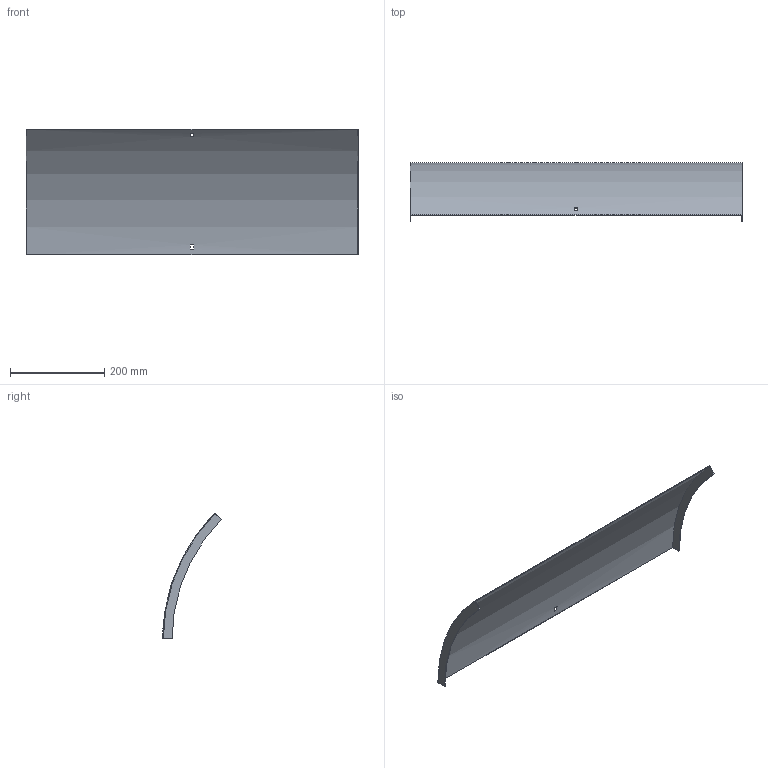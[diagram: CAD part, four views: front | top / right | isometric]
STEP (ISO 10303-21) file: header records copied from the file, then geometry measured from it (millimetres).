
FILE_DESCRIPTION (( 'STEP AP214' ), '1' );
FILE_NAME ('B2_34N3C700.step', '2025-02-21T10:36:09', ( '' ), ( '' ), 'SwSTEP 2.0', 'SolidWorks 2023', '' );
FILE_SCHEMA (( 'AUTOMOTIVE_DESIGN' ));
Length unit declared in the file: millimetre
Products named in the file (1): B2_34N3C700
Bounding box: 703 x 124.42 x 266.23 mm (x, y, z)
Volume: 326964.3 mm3; surface area: 439107.2 mm2
Topology: 1 solids, 1 shells, 18 faces, 48 edges, 32 vertices
Faces by surface type: plane 14, cylinder 4
Entity records: 599 total; most frequent: DIRECTION 102, CARTESIAN_POINT 99, ORIENTED_EDGE 96, EDGE_CURVE 48, AXIS2_PLACEMENT_3D 35, VECTOR 32, LINE 32, VERTEX_POINT 32
